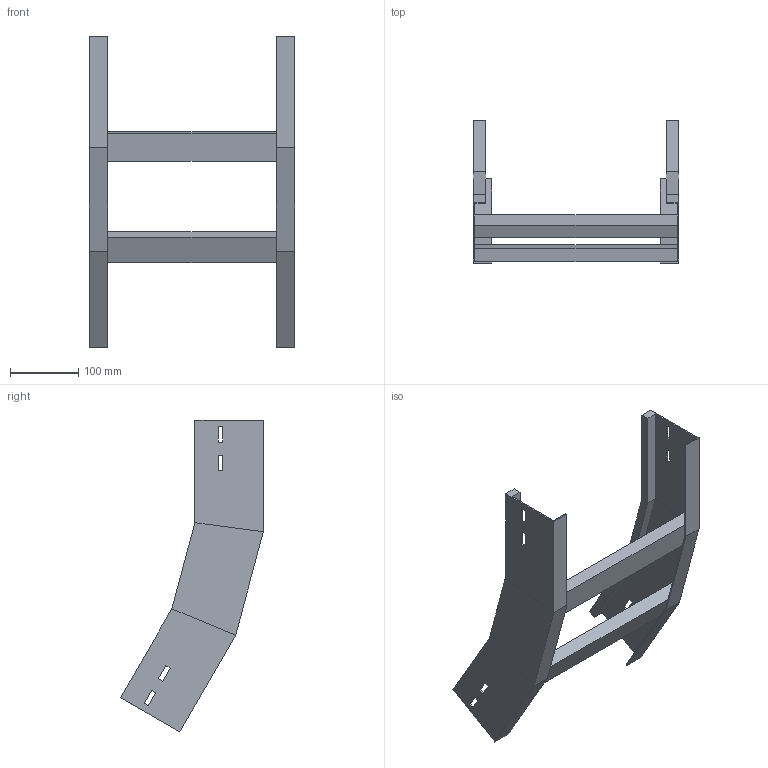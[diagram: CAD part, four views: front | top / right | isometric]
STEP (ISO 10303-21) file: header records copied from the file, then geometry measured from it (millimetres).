
FILE_DESCRIPTION (( 'STEP AP214' ), '1' );
FILE_NAME ('B2X32B5D300XX.step', '2025-03-20T09:58:39', ( '' ), ( '' ), 'SwSTEP 2.0', 'SolidWorks 2023', '' );
FILE_SCHEMA (( 'AUTOMOTIVE_DESIGN' ));
Length unit declared in the file: millimetre
Products named in the file (3): B2X32B5D300XX; TRAVERSINO_300; LONGH.SALITA_30°_H100_R500
Assembly tree (4 placements, depth 2):
  B2X32B5D300XX
    LONGH.SALITA_30°_H100_R500  x2
    TRAVERSINO_300  x2
Bounding box: 300 x 208.63 x 455.43 mm (x, y, z)
Volume: 874081 mm3; surface area: 337187.6 mm2
Topology: 4 solids, 4 shells, 96 faces, 232 edges, 144 vertices
Faces by surface type: plane 96
Entity records: 1472 total; most frequent: CARTESIAN_POINT 243, ORIENTED_EDGE 232, DIRECTION 226, EDGE_CURVE 116, VECTOR 116, LINE 116, VERTEX_POINT 72, EDGE_LOOP 56
